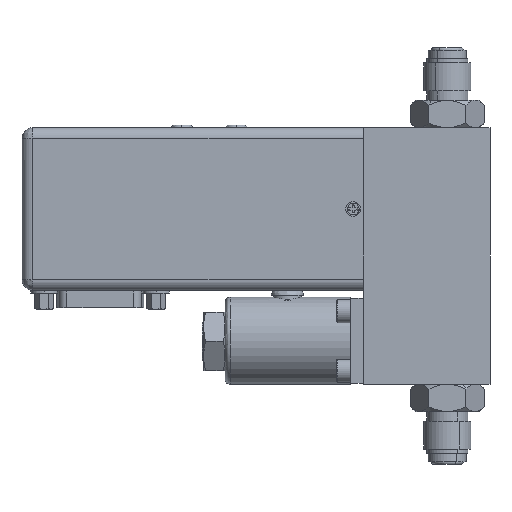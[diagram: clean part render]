
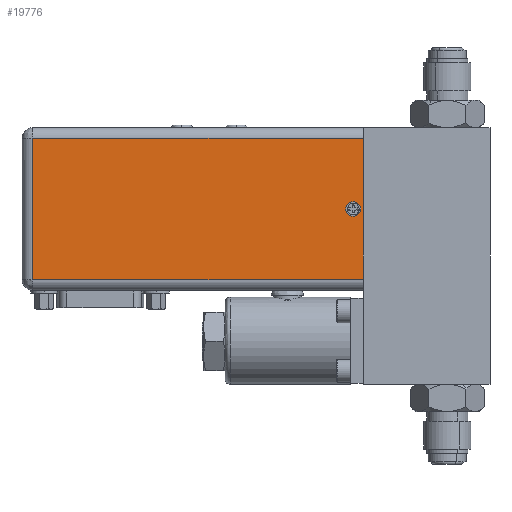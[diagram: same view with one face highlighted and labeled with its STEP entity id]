
A CAD part, left-side view. The second image highlights one B-rep face of the part: STEP entity #19776.
In plain terms, the highlighted planar face has unit normal (-1, 0, 0).
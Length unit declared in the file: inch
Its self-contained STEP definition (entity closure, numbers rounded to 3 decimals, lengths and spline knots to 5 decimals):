
#212 = CARTESIAN_POINT ( 'NONE',  ( -0.7345, 1.485, 1.378 ) ) ;
#379 = ORIENTED_EDGE ( 'NONE', *, *, #4640, .T. ) ;
#1235 = LINE ( 'NONE', #22768, #18702 ) ;
#2034 = VECTOR ( 'NONE', #24132, 39.37008 ) ;
#2259 = VERTEX_POINT ( 'NONE', #17651 ) ;
#2344 = DIRECTION ( 'NONE',  ( 1., 0., 0. ) ) ;
#2699 = DIRECTION ( 'NONE',  ( 0., 0., 1. ) ) ;
#2881 = VECTOR ( 'NONE', #3791, 39.37008 ) ;
#3493 = CARTESIAN_POINT ( 'NONE',  ( -0.7345, 1.485, -0.278 ) ) ;
#3643 = FACE_OUTER_BOUND ( 'NONE', #19024, .T. ) ;
#3791 = DIRECTION ( 'NONE',  ( 0., 0., -1. ) ) ;
#4640 = EDGE_CURVE ( 'NONE', #7793, #19605, #23936, .T. ) ;
#5722 = LINE ( 'NONE', #13250, #2881 ) ;
#6032 = AXIS2_PLACEMENT_3D ( 'NONE', #16526, #2344, #12179 ) ;
#7134 = ORIENTED_EDGE ( 'NONE', *, *, #8547, .T. ) ;
#7793 = VERTEX_POINT ( 'NONE', #19102 ) ;
#8547 = EDGE_CURVE ( 'NONE', #19605, #7793, #13803, .T. ) ;
#8899 = AXIS2_PLACEMENT_3D ( 'NONE', #10293, #22001, #2699 ) ;
#9129 = EDGE_CURVE ( 'NONE', #2259, #13577, #5722, .T. ) ;
#10293 = CARTESIAN_POINT ( 'NONE',  ( -0.7345, 1.603, 0.55 ) ) ;
#10441 = EDGE_CURVE ( 'NONE', #23102, #13577, #22634, .T. ) ;
#11442 = CARTESIAN_POINT ( 'NONE',  ( -0.7345, 1.485, 0.55 ) ) ;
#12179 = DIRECTION ( 'NONE',  ( 0., 0., 1. ) ) ;
#13250 = CARTESIAN_POINT ( 'NONE',  ( -0.7345, 5.36, 0.55 ) ) ;
#13391 = CARTESIAN_POINT ( 'NONE',  ( -0.7345, 5.36, -0.278 ) ) ;
#13577 = VERTEX_POINT ( 'NONE', #13391 ) ;
#13803 = CIRCLE ( 'NONE', #8899, 0.069 ) ;
#15098 = EDGE_CURVE ( 'NONE', #16232, #23102, #23998, .T. ) ;
#15260 = ORIENTED_EDGE ( 'NONE', *, *, #9129, .T. ) ;
#15396 = DIRECTION ( 'NONE',  ( 0., 1., 0. ) ) ;
#15705 = CARTESIAN_POINT ( 'NONE',  ( -0.7345, 1.603, 0.619 ) ) ;
#16232 = VERTEX_POINT ( 'NONE', #212 ) ;
#16526 = CARTESIAN_POINT ( 'NONE',  ( -0.7345, 1.603, 0.55 ) ) ;
#17651 = CARTESIAN_POINT ( 'NONE',  ( -0.7345, 5.36, 1.378 ) ) ;
#17710 = ORIENTED_EDGE ( 'NONE', *, *, #24813, .T. ) ;
#17975 = VECTOR ( 'NONE', #15396, 39.37008 ) ;
#18115 = ORIENTED_EDGE ( 'NONE', *, *, #10441, .F. ) ;
#18583 = AXIS2_PLACEMENT_3D ( 'NONE', #11442, #22557, #19214 ) ;
#18702 = VECTOR ( 'NONE', #20359, 39.37008 ) ;
#18923 = CARTESIAN_POINT ( 'NONE',  ( -0.7345, 1.485, -0.278 ) ) ;
#19024 = EDGE_LOOP ( 'NONE', ( #15260, #18115, #19159, #17710 ) ) ;
#19102 = CARTESIAN_POINT ( 'NONE',  ( -0.7345, 1.603, 0.481 ) ) ;
#19159 = ORIENTED_EDGE ( 'NONE', *, *, #15098, .F. ) ;
#19214 = DIRECTION ( 'NONE',  ( 0., 0., 1. ) ) ;
#19605 = VERTEX_POINT ( 'NONE', #15705 ) ;
#19776 = ADVANCED_FACE ( 'NONE', ( #3643, #20262 ), #22307, .T. ) ;
#20262 = FACE_BOUND ( 'NONE', #22837, .T. ) ;
#20359 = DIRECTION ( 'NONE',  ( 0., 1., 0. ) ) ;
#22001 = DIRECTION ( 'NONE',  ( 1., 0., 0. ) ) ;
#22307 = PLANE ( 'NONE',  #18583 ) ;
#22348 = CARTESIAN_POINT ( 'NONE',  ( -0.7345, 1.485, 0.55 ) ) ;
#22557 = DIRECTION ( 'NONE',  ( -1., 0., 0. ) ) ;
#22634 = LINE ( 'NONE', #3493, #17975 ) ;
#22768 = CARTESIAN_POINT ( 'NONE',  ( -0.7345, 1.485, 1.378 ) ) ;
#22837 = EDGE_LOOP ( 'NONE', ( #7134, #379 ) ) ;
#23102 = VERTEX_POINT ( 'NONE', #18923 ) ;
#23936 = CIRCLE ( 'NONE', #6032, 0.069 ) ;
#23998 = LINE ( 'NONE', #22348, #2034 ) ;
#24132 = DIRECTION ( 'NONE',  ( 0., 0., -1. ) ) ;
#24813 = EDGE_CURVE ( 'NONE', #16232, #2259, #1235, .T. ) ;
